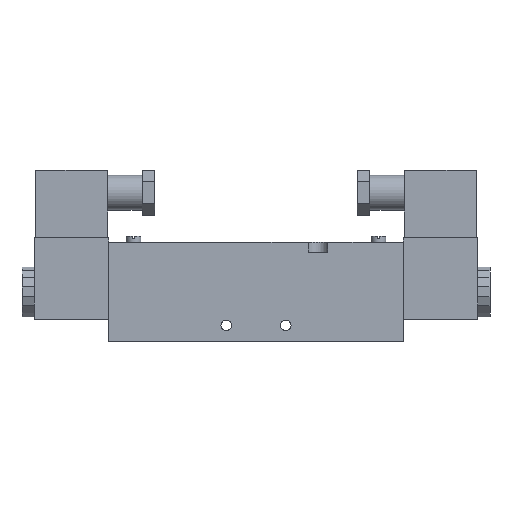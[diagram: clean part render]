
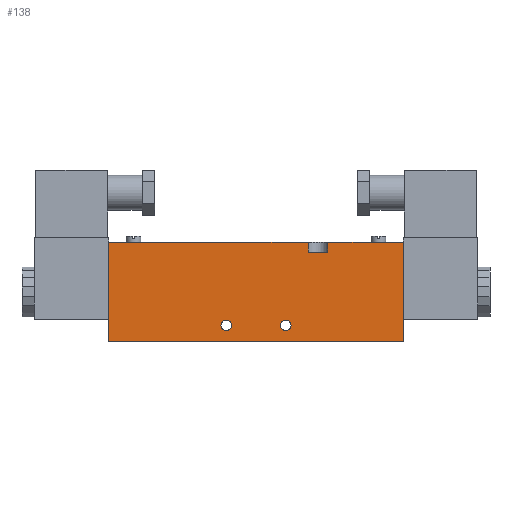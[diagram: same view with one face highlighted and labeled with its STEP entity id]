
A CAD part, top view. The second image highlights one B-rep face of the part: STEP entity #138.
In plain terms, the highlighted planar face has unit normal (0, 0, 1).
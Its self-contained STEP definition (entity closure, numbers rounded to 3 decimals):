
#138=ADVANCED_FACE('',(#516,#518,#520),#522,.T.);
#516=FACE_BOUND('',#517,.T.);
#517=EDGE_LOOP('',(#1386,#1387,#1388,#1389,#1390,#1391,#1392,#1393));
#518=FACE_BOUND('',#519,.T.);
#519=EDGE_LOOP('',(#1394));
#520=FACE_BOUND('',#521,.T.);
#521=EDGE_LOOP('',(#1395));
#522=PLANE('',#523);
#523=AXIS2_PLACEMENT_3D('',#524,#525,#526);
#524=CARTESIAN_POINT('',(-59.4,20.,13.5));
#525=DIRECTION('',(0.,0.,1.));
#526=DIRECTION('',(0.,-1.,0.));
#1386=ORIENTED_EDGE('',*,*,#1934,.T.);
#1387=ORIENTED_EDGE('',*,*,#1935,.F.);
#1388=ORIENTED_EDGE('',*,*,#1936,.T.);
#1389=ORIENTED_EDGE('',*,*,#1937,.T.);
#1390=ORIENTED_EDGE('',*,*,#1938,.F.);
#1391=ORIENTED_EDGE('',*,*,#1939,.F.);
#1392=ORIENTED_EDGE('',*,*,#1940,.T.);
#1393=ORIENTED_EDGE('',*,*,#1941,.T.);
#1394=ORIENTED_EDGE('',*,*,#1942,.T.);
#1395=ORIENTED_EDGE('',*,*,#1943,.T.);
#1934=EDGE_CURVE('',#2208,#2209,#2210,.F.);
#1935=EDGE_CURVE('',#2211,#2209,#2212,.T.);
#1936=EDGE_CURVE('',#2211,#2213,#2214,.T.);
#1937=EDGE_CURVE('',#2213,#2215,#2216,.T.);
#1938=EDGE_CURVE('',#2217,#2215,#2218,.T.);
#1939=EDGE_CURVE('',#2219,#2217,#2220,.T.);
#1940=EDGE_CURVE('',#2219,#2221,#2222,.F.);
#1941=EDGE_CURVE('',#2221,#2208,#2223,.T.);
#1942=EDGE_CURVE('',#2224,#2224,#2225,.F.);
#1943=EDGE_CURVE('',#2226,#2226,#2227,.F.);
#2208=VERTEX_POINT('',#2672);
#2209=VERTEX_POINT('',#2673);
#2210=LINE('',#2674,#2675);
#2211=VERTEX_POINT('',#2677);
#2212=LINE('',#2678,#2679);
#2213=VERTEX_POINT('',#2681);
#2214=LINE('',#2682,#2683);
#2215=VERTEX_POINT('',#2685);
#2216=LINE('',#2686,#2687);
#2217=VERTEX_POINT('',#2689);
#2218=LINE('',#2690,#2691);
#2219=VERTEX_POINT('',#2693);
#2220=LINE('',#2694,#2695);
#2221=VERTEX_POINT('',#2697);
#2222=LINE('',#2698,#2699);
#2223=LINE('',#2701,#2702);
#2224=VERTEX_POINT('',#2704);
#2225=CIRCLE('',#2705,2.15);
#2226=VERTEX_POINT('',#2709);
#2227=CIRCLE('',#2710,2.15);
#2672=CARTESIAN_POINT('',(21.,16.,13.5));
#2673=CARTESIAN_POINT('',(21.,20.,13.5));
#2674=CARTESIAN_POINT('',(21.,20.,13.5));
#2675=VECTOR('',#2676,1.);
#2676=DIRECTION('',(0.,-1.,0.));
#2677=CARTESIAN_POINT('',(-59.4,20.,13.5));
#2678=CARTESIAN_POINT('',(-59.4,20.,13.5));
#2679=VECTOR('',#2680,1.);
#2680=DIRECTION('',(1.,0.,0.));
#2681=CARTESIAN_POINT('',(-59.4,-20.,13.5));
#2682=CARTESIAN_POINT('',(-59.4,20.,13.5));
#2683=VECTOR('',#2684,1.);
#2684=DIRECTION('',(0.,-1.,0.));
#2685=CARTESIAN_POINT('',(59.4,-20.,13.5));
#2686=CARTESIAN_POINT('',(-59.4,-20.,13.5));
#2687=VECTOR('',#2688,1.);
#2688=DIRECTION('',(1.,0.,0.));
#2689=CARTESIAN_POINT('',(59.4,20.,13.5));
#2690=CARTESIAN_POINT('',(59.4,20.,13.5));
#2691=VECTOR('',#2692,1.);
#2692=DIRECTION('',(0.,-1.,0.));
#2693=CARTESIAN_POINT('',(29.,20.,13.5));
#2694=CARTESIAN_POINT('',(29.,20.,13.5));
#2695=VECTOR('',#2696,1.);
#2696=DIRECTION('',(1.,0.,0.));
#2697=CARTESIAN_POINT('',(29.,16.,13.5));
#2698=CARTESIAN_POINT('',(29.,16.,13.5));
#2699=VECTOR('',#2700,1.);
#2700=DIRECTION('',(0.,1.,0.));
#2701=CARTESIAN_POINT('',(29.,16.,13.5));
#2702=VECTOR('',#2703,1.);
#2703=DIRECTION('',(-1.,0.,0.));
#2704=CARTESIAN_POINT('',(14.15,-13.5,13.5));
#2705=AXIS2_PLACEMENT_3D('',#2706,#2707,#2708);
#2706=CARTESIAN_POINT('',(12.,-13.5,13.5));
#2707=DIRECTION('',(0.,0.,1.));
#2708=DIRECTION('',(1.,0.,0.));
#2709=CARTESIAN_POINT('',(-9.85,-13.5,13.5));
#2710=AXIS2_PLACEMENT_3D('',#2711,#2712,#2713);
#2711=CARTESIAN_POINT('',(-12.,-13.5,13.5));
#2712=DIRECTION('',(0.,0.,1.));
#2713=DIRECTION('',(1.,0.,0.));
